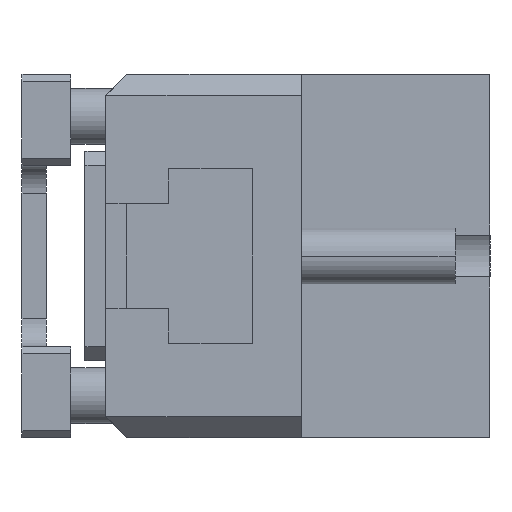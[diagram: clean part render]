
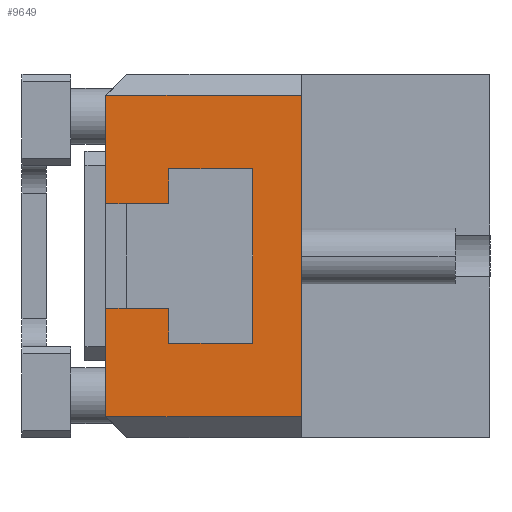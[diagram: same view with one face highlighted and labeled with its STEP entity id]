
A CAD part, left-side view. The second image highlights one B-rep face of the part: STEP entity #9649.
In plain terms, the highlighted planar face has unit normal (-1, 0, 0).
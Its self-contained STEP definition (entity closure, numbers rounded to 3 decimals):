
#547 = DIRECTION ( 'NONE',  ( 0., -1., 0. ) ) ;
#809 = CARTESIAN_POINT ( 'NONE',  ( -50., 55., 26. ) ) ;
#1146 = VERTEX_POINT ( 'NONE', #35804 ) ;
#1450 = CARTESIAN_POINT ( 'NONE',  ( -50., 34., 26. ) ) ;
#1665 = CARTESIAN_POINT ( 'NONE',  ( -50., 55., 12.5 ) ) ;
#2665 = CARTESIAN_POINT ( 'NONE',  ( -50., 55., -23. ) ) ;
#2797 = DIRECTION ( 'NONE',  ( 0., -1., 0. ) ) ;
#2903 = ORIENTED_EDGE ( 'NONE', *, *, #37431, .F. ) ;
#3263 = DIRECTION ( 'NONE',  ( 0., 1., 0. ) ) ;
#3342 = VECTOR ( 'NONE', #4802, 1000. ) ;
#4576 = LINE ( 'NONE', #809, #3342 ) ;
#4693 = DIRECTION ( 'NONE',  ( 0., -1., 0. ) ) ;
#4802 = DIRECTION ( 'NONE',  ( 0., 0., 1. ) ) ;
#4978 = LINE ( 'NONE', #34593, #15455 ) ;
#6313 = VECTOR ( 'NONE', #2797, 1000. ) ;
#7157 = VECTOR ( 'NONE', #39651, 1000. ) ;
#8037 = EDGE_CURVE ( 'NONE', #16771, #13866, #4978, .T. ) ;
#8182 = CARTESIAN_POINT ( 'NONE',  ( -50., 46., 26. ) ) ;
#8373 = LINE ( 'NONE', #8182, #7157 ) ;
#8728 = VERTEX_POINT ( 'NONE', #44716 ) ;
#9649 = ADVANCED_FACE ( 'NONE', ( #24001 ), #13842, .F. ) ;
#10135 = VERTEX_POINT ( 'NONE', #26160 ) ;
#10374 = LINE ( 'NONE', #1450, #23278 ) ;
#10905 = ORIENTED_EDGE ( 'NONE', *, *, #13573, .F. ) ;
#11175 = LINE ( 'NONE', #36021, #41336 ) ;
#12090 = ORIENTED_EDGE ( 'NONE', *, *, #8037, .F. ) ;
#12307 = CARTESIAN_POINT ( 'NONE',  ( -50., 55., 23. ) ) ;
#12411 = LINE ( 'NONE', #12307, #32104 ) ;
#12966 = CARTESIAN_POINT ( 'NONE',  ( -50., 46., -12.5 ) ) ;
#13410 = ORIENTED_EDGE ( 'NONE', *, *, #43657, .T. ) ;
#13573 = EDGE_CURVE ( 'NONE', #40235, #25253, #12411, .T. ) ;
#13588 = EDGE_CURVE ( 'NONE', #36722, #1146, #11175, .T. ) ;
#13842 = PLANE ( 'NONE',  #49363 ) ;
#13866 = VERTEX_POINT ( 'NONE', #18632 ) ;
#14062 = VERTEX_POINT ( 'NONE', #16521 ) ;
#15455 = VECTOR ( 'NONE', #3263, 1000. ) ;
#16521 = CARTESIAN_POINT ( 'NONE',  ( -50., 34., -12.5 ) ) ;
#16771 = VERTEX_POINT ( 'NONE', #39206 ) ;
#17313 = CARTESIAN_POINT ( 'NONE',  ( -50., 55., -7.5 ) ) ;
#17582 = ORIENTED_EDGE ( 'NONE', *, *, #13588, .F. ) ;
#17939 = DIRECTION ( 'NONE',  ( 0., 1., 0. ) ) ;
#18003 = EDGE_CURVE ( 'NONE', #8728, #39825, #49730, .T. ) ;
#18488 = CARTESIAN_POINT ( 'NONE',  ( -50., 55., 26. ) ) ;
#18632 = CARTESIAN_POINT ( 'NONE',  ( -50., 55., 7.5 ) ) ;
#19562 = VECTOR ( 'NONE', #33194, 1000. ) ;
#20558 = ORIENTED_EDGE ( 'NONE', *, *, #35102, .F. ) ;
#21055 = ORIENTED_EDGE ( 'NONE', *, *, #48608, .F. ) ;
#22452 = DIRECTION ( 'NONE',  ( 0., 0., -1. ) ) ;
#22749 = CARTESIAN_POINT ( 'NONE',  ( -50., 46., 12.5 ) ) ;
#22757 = VECTOR ( 'NONE', #47284, 1000. ) ;
#23278 = VECTOR ( 'NONE', #36401, 1000. ) ;
#23703 = CARTESIAN_POINT ( 'NONE',  ( -50., 46., 26. ) ) ;
#23981 = LINE ( 'NONE', #23703, #22757 ) ;
#24001 = FACE_OUTER_BOUND ( 'NONE', #38928, .T. ) ;
#24386 = CARTESIAN_POINT ( 'NONE',  ( -50., 55., 23. ) ) ;
#24775 = ORIENTED_EDGE ( 'NONE', *, *, #50073, .F. ) ;
#25253 = VERTEX_POINT ( 'NONE', #29097 ) ;
#25832 = LINE ( 'NONE', #38453, #35051 ) ;
#26160 = CARTESIAN_POINT ( 'NONE',  ( -50., 27., -23. ) ) ;
#27177 = EDGE_CURVE ( 'NONE', #34285, #14062, #45718, .T. ) ;
#27948 = EDGE_CURVE ( 'NONE', #10135, #36857, #40111, .T. ) ;
#27971 = ORIENTED_EDGE ( 'NONE', *, *, #18003, .F. ) ;
#29097 = CARTESIAN_POINT ( 'NONE',  ( -50., 27., 23. ) ) ;
#29713 = VECTOR ( 'NONE', #32823, 1000. ) ;
#29793 = LINE ( 'NONE', #18488, #49464 ) ;
#32104 = VECTOR ( 'NONE', #547, 1000. ) ;
#32801 = ORIENTED_EDGE ( 'NONE', *, *, #27948, .F. ) ;
#32823 = DIRECTION ( 'NONE',  ( 0., 1., 0. ) ) ;
#33194 = DIRECTION ( 'NONE',  ( 0., 1., 0. ) ) ;
#34285 = VERTEX_POINT ( 'NONE', #12966 ) ;
#34593 = CARTESIAN_POINT ( 'NONE',  ( -50., 55., 7.5 ) ) ;
#35051 = VECTOR ( 'NONE', #42407, 1000. ) ;
#35102 = EDGE_CURVE ( 'NONE', #1146, #34285, #8373, .T. ) ;
#35804 = CARTESIAN_POINT ( 'NONE',  ( -50., 46., -7.5 ) ) ;
#36021 = CARTESIAN_POINT ( 'NONE',  ( -50., 55., -7.5 ) ) ;
#36401 = DIRECTION ( 'NONE',  ( 0., 0., 1. ) ) ;
#36722 = VERTEX_POINT ( 'NONE', #17313 ) ;
#36857 = VERTEX_POINT ( 'NONE', #2665 ) ;
#37431 = EDGE_CURVE ( 'NONE', #13866, #40235, #4576, .T. ) ;
#37556 = CARTESIAN_POINT ( 'NONE',  ( -50., 55., 26. ) ) ;
#38453 = CARTESIAN_POINT ( 'NONE',  ( -50., 27., 26. ) ) ;
#38928 = EDGE_LOOP ( 'NONE', ( #32801, #47376, #10905, #2903, #12090, #21055, #27971, #24775, #50886, #20558, #17582, #13410 ) ) ;
#39206 = CARTESIAN_POINT ( 'NONE',  ( -50., 46., 7.5 ) ) ;
#39651 = DIRECTION ( 'NONE',  ( 0., 0., -1. ) ) ;
#39825 = VERTEX_POINT ( 'NONE', #22749 ) ;
#40111 = LINE ( 'NONE', #44490, #29713 ) ;
#40235 = VERTEX_POINT ( 'NONE', #24386 ) ;
#41336 = VECTOR ( 'NONE', #4693, 1000. ) ;
#41503 = DIRECTION ( 'NONE',  ( 1., 0., 0. ) ) ;
#42407 = DIRECTION ( 'NONE',  ( 0., 0., 1. ) ) ;
#43657 = EDGE_CURVE ( 'NONE', #36722, #36857, #29793, .T. ) ;
#44490 = CARTESIAN_POINT ( 'NONE',  ( -50., 55., -23. ) ) ;
#44716 = CARTESIAN_POINT ( 'NONE',  ( -50., 34., 12.5 ) ) ;
#45718 = LINE ( 'NONE', #50465, #6313 ) ;
#47284 = DIRECTION ( 'NONE',  ( 0., 0., -1. ) ) ;
#47376 = ORIENTED_EDGE ( 'NONE', *, *, #48901, .T. ) ;
#48608 = EDGE_CURVE ( 'NONE', #39825, #16771, #23981, .T. ) ;
#48901 = EDGE_CURVE ( 'NONE', #10135, #25253, #25832, .T. ) ;
#49363 = AXIS2_PLACEMENT_3D ( 'NONE', #37556, #41503, #17939 ) ;
#49464 = VECTOR ( 'NONE', #22452, 1000. ) ;
#49730 = LINE ( 'NONE', #1665, #19562 ) ;
#50073 = EDGE_CURVE ( 'NONE', #14062, #8728, #10374, .T. ) ;
#50465 = CARTESIAN_POINT ( 'NONE',  ( -50., 55., -12.5 ) ) ;
#50886 = ORIENTED_EDGE ( 'NONE', *, *, #27177, .F. ) ;
